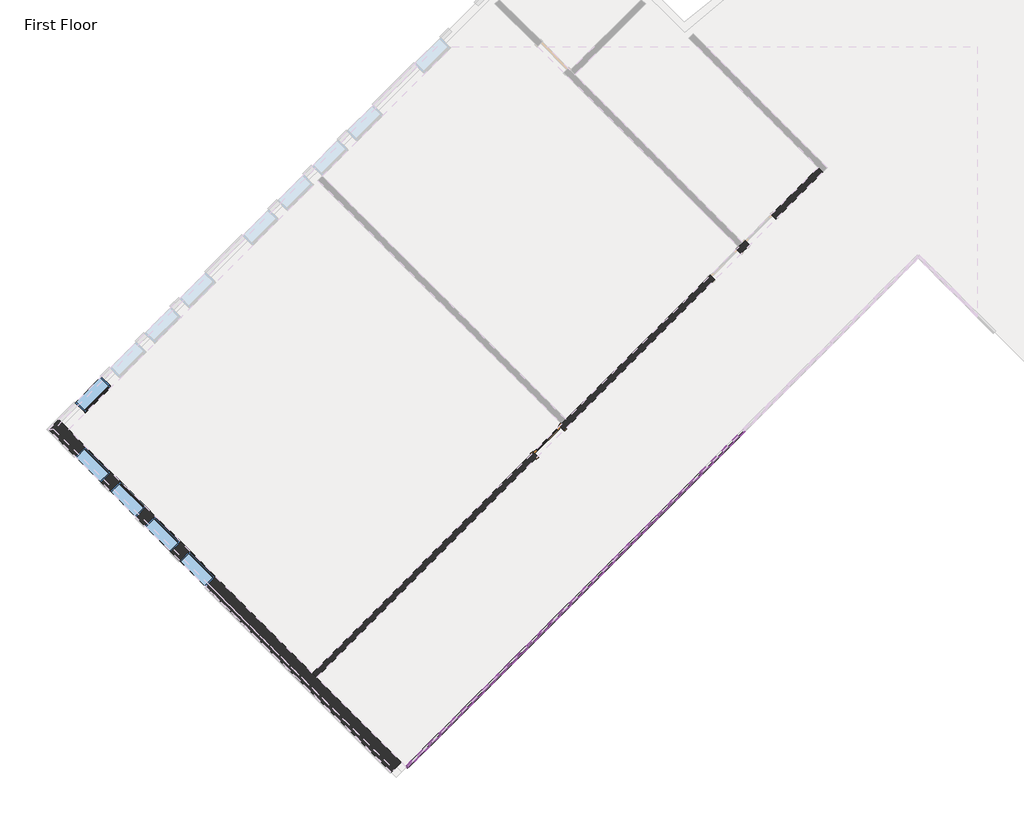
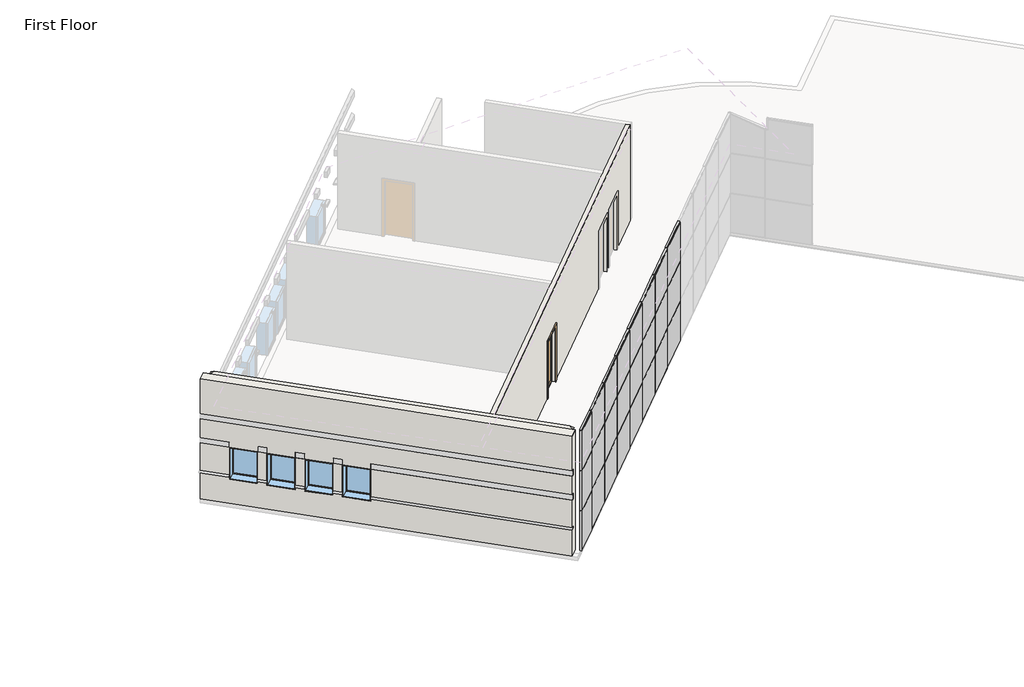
# One storey, part 1 of 7: 55 members, 24 plates, 5 windows, 2 walls, 1 door.
"""IFC4 building model written with IfcOpenShell, lengths in millimetres."""

from ifc_helpers import new_model, si_unit, origin, place, context, project, spatial, faceted_brep, transform, mapped, element, save
from components import door_b81abb0e, member_501cf4ca, member_155beb68, member_42be4715, member_2a473b70, member_6121af53, member_3d68c01a, member_b87a50da, member_c3f37f0b, system_panel_glazed_da345f4e, system_panel_glazed_f1e4c5b0, system_panel_glazed_6b3f3dd8, system_panel_glazed_4e4f70a1, system_panel_solid_cb9a7247, system_panel_solid_e887e8ce, window_15c49d37, window_0e2fc6ce

model = new_model("IFC4")

# Units and contexts
model_context = context("Model", 3, world=origin())
ifc_project = project(units=[si_unit("LENGTHUNIT", "METRE", prefix="MILLI")], contexts=[model_context])

# Site, building, storey
site = spatial("IfcSite", under=ifc_project)
building = spatial("IfcBuilding", under=site)
storey = spatial("IfcBuildingStorey", under=building, Name="First Floor", Elevation=0.0)

# Door
placement = place(None, origin())
door_shape = door_b81abb0e(model_context)
element("IfcDoor", 1, ObjectType="Single-Glass 1 : 36\" x 84\"", at=placement, inside=storey, context=model_context, shape_type="MappedRepresentation", body=[
    mapped(door_shape, transform((-12027.7718255, -1647.4849877, 0.0), x_axis=(0.7071067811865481, 0.7071067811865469, 0.0), y_axis=(-0.7071067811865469, 0.7071067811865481, 0.0), z_axis=(0.0, 0.0, 1.0))),
])

# Members
member_shape = member_501cf4ca(model_context)
element("IfcMember", 2, ObjectType="Rectangular Mullion : 1.5\" x 2.5\" Rectangular", at=placement, inside=storey, context=model_context, shape_type="MappedRepresentation", body=[
    mapped(member_shape, transform((-15523.4543029, -9702.8925106, 4567.7666667), x_axis=(0.0, 0.0, 1.0), y_axis=(-0.7071067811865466, 0.7071067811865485, 0.0), z_axis=(-0.7071067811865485, -0.7071067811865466, 0.0))),
])
member_2_shape = member_155beb68(model_context)
element("IfcMember", 3, ObjectType="Rectangular Mullion : 1.5\" x 2.5\" Rectangular", at=placement, inside=storey, context=model_context, shape_type="MappedRepresentation", body=[
    mapped(member_2_shape, transform((-8256.1820372, -2435.6202448, 0.0), x_axis=(-0.7071067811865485, -0.7071067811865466, 0.0), y_axis=(-0.7071067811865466, 0.7071067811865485, 0.0), z_axis=(0.0, 0.0, -1.0))),
])
element("IfcMember", 4, ObjectType="Rectangular Mullion : 1.5\" x 2.5\" Rectangular", at=placement, inside=storey, context=model_context, shape_type="MappedRepresentation", body=[
    mapped(member_2_shape, transform((-9333.8127717, -3513.2509794, 0.0), x_axis=(-0.7071067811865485, -0.7071067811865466, 0.0), y_axis=(-0.7071067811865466, 0.7071067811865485, 0.0), z_axis=(0.0, 0.0, -1.0))),
])
element("IfcMember", 5, ObjectType="Rectangular Mullion : 1.5\" x 2.5\" Rectangular", at=placement, inside=storey, context=model_context, shape_type="MappedRepresentation", body=[
    mapped(member_2_shape, transform((-10411.4435062, -4590.8817139, 0.0), x_axis=(-0.7071067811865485, -0.7071067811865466, 0.0), y_axis=(-0.7071067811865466, 0.7071067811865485, 0.0), z_axis=(0.0, 0.0, -1.0))),
])
element("IfcMember", 6, ObjectType="Rectangular Mullion : 1.5\" x 2.5\" Rectangular", at=placement, inside=storey, context=model_context, shape_type="MappedRepresentation", body=[
    mapped(member_2_shape, transform((-11489.0742407, -5668.5124484, 0.0), x_axis=(-0.7071067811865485, -0.7071067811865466, 0.0), y_axis=(-0.7071067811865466, 0.7071067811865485, 0.0), z_axis=(0.0, 0.0, -1.0))),
])
element("IfcMember", 7, ObjectType="Rectangular Mullion : 1.5\" x 2.5\" Rectangular", at=placement, inside=storey, context=model_context, shape_type="MappedRepresentation", body=[
    mapped(member_2_shape, transform((-12566.7049753, -6746.143183, 0.0), x_axis=(-0.7071067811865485, -0.7071067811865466, 0.0), y_axis=(-0.7071067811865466, 0.7071067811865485, 0.0), z_axis=(0.0, 0.0, -1.0))),
])
element("IfcMember", 8, ObjectType="Rectangular Mullion : 1.5\" x 2.5\" Rectangular", at=placement, inside=storey, context=model_context, shape_type="MappedRepresentation", body=[
    mapped(member_2_shape, transform((-13644.3357098, -7823.7739175, 0.0), x_axis=(-0.7071067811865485, -0.7071067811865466, 0.0), y_axis=(-0.7071067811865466, 0.7071067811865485, 0.0), z_axis=(0.0, 0.0, -1.0))),
])
element("IfcMember", 9, ObjectType="Rectangular Mullion : 1.5\" x 2.5\" Rectangular", at=placement, inside=storey, context=model_context, shape_type="MappedRepresentation", body=[
    mapped(member_2_shape, transform((-14721.9664443, -8901.404652, 0.0), x_axis=(-0.7071067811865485, -0.7071067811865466, 0.0), y_axis=(-0.7071067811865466, 0.7071067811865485, 0.0), z_axis=(0.0, 0.0, -1.0))),
])
member_3_shape = member_42be4715(model_context)
element("IfcMember", 10, ObjectType="Rectangular Mullion : 1.5\" x 2.5\" Rectangular", at=placement, inside=storey, context=model_context, shape_type="MappedRepresentation", body=[
    mapped(member_3_shape, transform((-8242.711653, -2422.1498607, 1524.0), x_axis=(0.0, 0.0, 1.0), y_axis=(-0.7071067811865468, 0.7071067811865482, 0.0), z_axis=(-0.7071067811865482, -0.7071067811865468, 0.0))),
])
element("IfcMember", 11, ObjectType="Rectangular Mullion : 1.5\" x 2.5\" Rectangular", at=placement, inside=storey, context=model_context, shape_type="MappedRepresentation", body=[
    mapped(member_3_shape, transform((-9320.3423875, -3499.7805952, 1524.0), x_axis=(0.0, 0.0, 1.0), y_axis=(-0.7071067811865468, 0.7071067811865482, 0.0), z_axis=(-0.7071067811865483, -0.7071067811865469, 0.0))),
])
element("IfcMember", 12, ObjectType="Rectangular Mullion : 1.5\" x 2.5\" Rectangular", at=placement, inside=storey, context=model_context, shape_type="MappedRepresentation", body=[
    mapped(member_3_shape, transform((-10397.973122, -4577.4113297, 1524.0), x_axis=(0.0, 0.0, 1.0), y_axis=(-0.7071067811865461, 0.707106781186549, 0.0), z_axis=(-0.707106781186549, -0.7071067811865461, 0.0))),
])
element("IfcMember", 13, ObjectType="Rectangular Mullion : 1.5\" x 2.5\" Rectangular", at=placement, inside=storey, context=model_context, shape_type="MappedRepresentation", body=[
    mapped(member_3_shape, transform((-11475.6038566, -5655.0420642, 1524.0), x_axis=(0.0, 0.0, 1.0), y_axis=(-0.7071067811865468, 0.7071067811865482, 0.0), z_axis=(-0.7071067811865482, -0.7071067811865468, 0.0))),
])
element("IfcMember", 14, ObjectType="Rectangular Mullion : 1.5\" x 2.5\" Rectangular", at=placement, inside=storey, context=model_context, shape_type="MappedRepresentation", body=[
    mapped(member_3_shape, transform((-12553.2345911, -6732.6727988, 1524.0), x_axis=(0.0, 0.0, 1.0), y_axis=(-0.7071067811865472, 0.7071067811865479, 0.0), z_axis=(-0.7071067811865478, -0.7071067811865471, 0.0))),
])
element("IfcMember", 15, ObjectType="Rectangular Mullion : 1.5\" x 2.5\" Rectangular", at=placement, inside=storey, context=model_context, shape_type="MappedRepresentation", body=[
    mapped(member_3_shape, transform((-13630.8653256, -7810.3035333, 1524.0), x_axis=(0.0, 0.0, 1.0), y_axis=(-0.7071067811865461, 0.7071067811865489, 0.0), z_axis=(-0.7071067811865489, -0.7071067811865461, 0.0))),
])
element("IfcMember", 16, ObjectType="Rectangular Mullion : 1.5\" x 2.5\" Rectangular", at=placement, inside=storey, context=model_context, shape_type="MappedRepresentation", body=[
    mapped(member_3_shape, transform((-14708.4960602, -8887.9342678, 1524.0), x_axis=(0.0, 0.0, 1.0), y_axis=(-0.7071067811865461, 0.707106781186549, 0.0), z_axis=(-0.7071067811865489, -0.707106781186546, 0.0))),
])
element("IfcMember", 17, ObjectType="Rectangular Mullion : 1.5\" x 2.5\" Rectangular", at=placement, inside=storey, context=model_context, shape_type="MappedRepresentation", body=[
    mapped(member_3_shape, transform((-8242.711653, -2422.1498607, 3048.0), x_axis=(0.0, 0.0, 1.0), y_axis=(-0.7071067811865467, 0.7071067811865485, 0.0), z_axis=(-0.7071067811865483, -0.7071067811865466, 0.0))),
])
element("IfcMember", 18, ObjectType="Rectangular Mullion : 1.5\" x 2.5\" Rectangular", at=placement, inside=storey, context=model_context, shape_type="MappedRepresentation", body=[
    mapped(member_3_shape, transform((-9320.3423875, -3499.7805952, 3048.0), x_axis=(0.0, 0.0, 1.0), y_axis=(-0.7071067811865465, 0.7071067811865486, 0.0), z_axis=(-0.7071067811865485, -0.7071067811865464, 0.0))),
])
element("IfcMember", 19, ObjectType="Rectangular Mullion : 1.5\" x 2.5\" Rectangular", at=placement, inside=storey, context=model_context, shape_type="MappedRepresentation", body=[
    mapped(member_3_shape, transform((-10397.973122, -4577.4113297, 3048.0), x_axis=(0.0, 0.0, 1.0), y_axis=(-0.7071067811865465, 0.7071067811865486, 0.0), z_axis=(-0.7071067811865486, -0.7071067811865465, 0.0))),
])
element("IfcMember", 20, ObjectType="Rectangular Mullion : 1.5\" x 2.5\" Rectangular", at=placement, inside=storey, context=model_context, shape_type="MappedRepresentation", body=[
    mapped(member_3_shape, transform((-11475.6038566, -5655.0420642, 3048.0), x_axis=(0.0, 0.0, 1.0), y_axis=(-0.7071067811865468, 0.7071067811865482, 0.0), z_axis=(-0.7071067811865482, -0.7071067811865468, 0.0))),
])
element("IfcMember", 21, ObjectType="Rectangular Mullion : 1.5\" x 2.5\" Rectangular", at=placement, inside=storey, context=model_context, shape_type="MappedRepresentation", body=[
    mapped(member_3_shape, transform((-12553.2345911, -6732.6727988, 3048.0), x_axis=(0.0, 0.0, 1.0), y_axis=(-0.7071067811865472, 0.7071067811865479, 0.0), z_axis=(-0.7071067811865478, -0.7071067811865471, 0.0))),
])
element("IfcMember", 22, ObjectType="Rectangular Mullion : 1.5\" x 2.5\" Rectangular", at=placement, inside=storey, context=model_context, shape_type="MappedRepresentation", body=[
    mapped(member_3_shape, transform((-13630.8653256, -7810.3035333, 3048.0), x_axis=(0.0, 0.0, 1.0), y_axis=(-0.7071067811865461, 0.7071067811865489, 0.0), z_axis=(-0.7071067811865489, -0.7071067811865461, 0.0))),
])
element("IfcMember", 23, ObjectType="Rectangular Mullion : 1.5\" x 2.5\" Rectangular", at=placement, inside=storey, context=model_context, shape_type="MappedRepresentation", body=[
    mapped(member_3_shape, transform((-14708.4960602, -8887.9342678, 3048.0), x_axis=(0.0, 0.0, 1.0), y_axis=(-0.7071067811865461, 0.707106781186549, 0.0), z_axis=(-0.7071067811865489, -0.707106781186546, 0.0))),
])
member_4_shape = member_2a473b70(model_context)
element("IfcMember", 24, ObjectType="Rectangular Mullion : 1.5\" x 2.5\" Rectangular", at=placement, inside=storey, context=model_context, shape_type="MappedRepresentation", body=[
    mapped(member_4_shape, transform((-15523.4543029, -9702.8925106, 1524.0), x_axis=(0.0, 0.0, 1.0), y_axis=(-0.7071067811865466, 0.7071067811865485, 0.0), z_axis=(-0.7071067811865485, -0.7071067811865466, 0.0))),
])
element("IfcMember", 25, ObjectType="Rectangular Mullion : 1.5\" x 2.5\" Rectangular", at=placement, inside=storey, context=model_context, shape_type="MappedRepresentation", body=[
    mapped(member_4_shape, transform((-15523.4543029, -9702.8925106, 3048.0), x_axis=(0.0, 0.0, 1.0), y_axis=(-0.7071067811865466, 0.7071067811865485, 0.0), z_axis=(-0.7071067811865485, -0.7071067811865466, 0.0))),
])
member_5_shape = member_6121af53(model_context)
element("IfcMember", 26, ObjectType="Rectangular Mullion : 1.5\" x 2.5\" Rectangular", at=placement, inside=storey, context=model_context, shape_type="MappedRepresentation", body=[
    mapped(member_5_shape, transform((-8269.6524213, -2449.090629, 0.0), x_axis=(0.0, 0.0, -1.0), y_axis=(-0.7071067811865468, 0.7071067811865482, 0.0), z_axis=(0.7071067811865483, 0.7071067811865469, 0.0))),
])
element("IfcMember", 27, ObjectType="Rectangular Mullion : 1.5\" x 2.5\" Rectangular", at=placement, inside=storey, context=model_context, shape_type="MappedRepresentation", body=[
    mapped(member_5_shape, transform((-9347.2831559, -3526.7213635, 0.0), x_axis=(0.0, 0.0, -1.0), y_axis=(-0.7071067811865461, 0.707106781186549, 0.0), z_axis=(0.707106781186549, 0.7071067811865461, 0.0))),
])
element("IfcMember", 28, ObjectType="Rectangular Mullion : 1.5\" x 2.5\" Rectangular", at=placement, inside=storey, context=model_context, shape_type="MappedRepresentation", body=[
    mapped(member_5_shape, transform((-10424.9138904, -4604.3520981, 0.0), x_axis=(0.0, 0.0, -1.0), y_axis=(-0.7071067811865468, 0.7071067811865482, 0.0), z_axis=(0.7071067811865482, 0.7071067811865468, 0.0))),
])
element("IfcMember", 29, ObjectType="Rectangular Mullion : 1.5\" x 2.5\" Rectangular", at=placement, inside=storey, context=model_context, shape_type="MappedRepresentation", body=[
    mapped(member_5_shape, transform((-11502.5446249, -5681.9828326, 0.0), x_axis=(0.0, 0.0, -1.0), y_axis=(-0.7071067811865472, 0.7071067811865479, 0.0), z_axis=(0.7071067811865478, 0.7071067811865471, 0.0))),
])
element("IfcMember", 30, ObjectType="Rectangular Mullion : 1.5\" x 2.5\" Rectangular", at=placement, inside=storey, context=model_context, shape_type="MappedRepresentation", body=[
    mapped(member_5_shape, transform((-12580.1753595, -6759.6135671, 0.0), x_axis=(0.0, 0.0, -1.0), y_axis=(-0.7071067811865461, 0.7071067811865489, 0.0), z_axis=(0.7071067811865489, 0.7071067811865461, 0.0))),
])
element("IfcMember", 31, ObjectType="Rectangular Mullion : 1.5\" x 2.5\" Rectangular", at=placement, inside=storey, context=model_context, shape_type="MappedRepresentation", body=[
    mapped(member_5_shape, transform((-13657.806094, -7837.2443017, 0.0), x_axis=(0.0, 0.0, -1.0), y_axis=(-0.7071067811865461, 0.707106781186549, 0.0), z_axis=(0.7071067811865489, 0.707106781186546, 0.0))),
])
element("IfcMember", 32, ObjectType="Rectangular Mullion : 1.5\" x 2.5\" Rectangular", at=placement, inside=storey, context=model_context, shape_type="MappedRepresentation", body=[
    mapped(member_shape, transform((-14735.4368285, -8914.8750362, 0.0), x_axis=(0.0, 0.0, -1.0), y_axis=(-0.7071067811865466, 0.7071067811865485, 0.0), z_axis=(0.7071067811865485, 0.7071067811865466, 0.0))),
])
element("IfcMember", 33, ObjectType="Rectangular Mullion : 1.5\" x 2.5\" Rectangular", at=placement, inside=storey, context=model_context, shape_type="MappedRepresentation", body=[
    mapped(member_5_shape, transform((-8242.711653, -2422.1498607, 4567.7666667), x_axis=(0.0, 0.0, 1.0), y_axis=(-0.7071067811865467, 0.7071067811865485, 0.0), z_axis=(-0.7071067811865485, -0.7071067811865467, 0.0))),
])
element("IfcMember", 34, ObjectType="Rectangular Mullion : 1.5\" x 2.5\" Rectangular", at=placement, inside=storey, context=model_context, shape_type="MappedRepresentation", body=[
    mapped(member_5_shape, transform((-9320.3423875, -3499.7805952, 4567.7666667), x_axis=(0.0, 0.0, 1.0), y_axis=(-0.7071067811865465, 0.7071067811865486, 0.0), z_axis=(-0.7071067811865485, -0.7071067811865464, 0.0))),
])
element("IfcMember", 35, ObjectType="Rectangular Mullion : 1.5\" x 2.5\" Rectangular", at=placement, inside=storey, context=model_context, shape_type="MappedRepresentation", body=[
    mapped(member_5_shape, transform((-10397.973122, -4577.4113297, 4567.7666667), x_axis=(0.0, 0.0, 1.0), y_axis=(-0.7071067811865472, 0.7071067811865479, 0.0), z_axis=(-0.7071067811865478, -0.7071067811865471, 0.0))),
])
element("IfcMember", 36, ObjectType="Rectangular Mullion : 1.5\" x 2.5\" Rectangular", at=placement, inside=storey, context=model_context, shape_type="MappedRepresentation", body=[
    mapped(member_5_shape, transform((-11475.6038566, -5655.0420642, 4567.7666667), x_axis=(0.0, 0.0, 1.0), y_axis=(-0.7071067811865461, 0.707106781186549, 0.0), z_axis=(-0.7071067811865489, -0.707106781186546, 0.0))),
])
element("IfcMember", 37, ObjectType="Rectangular Mullion : 1.5\" x 2.5\" Rectangular", at=placement, inside=storey, context=model_context, shape_type="MappedRepresentation", body=[
    mapped(member_5_shape, transform((-12553.2345911, -6732.6727988, 4567.7666667), x_axis=(0.0, 0.0, 1.0), y_axis=(-0.7071067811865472, 0.7071067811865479, 0.0), z_axis=(-0.7071067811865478, -0.7071067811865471, 0.0))),
])
element("IfcMember", 38, ObjectType="Rectangular Mullion : 1.5\" x 2.5\" Rectangular", at=placement, inside=storey, context=model_context, shape_type="MappedRepresentation", body=[
    mapped(member_5_shape, transform((-13630.8653256, -7810.3035333, 4567.7666667), x_axis=(0.0, 0.0, 1.0), y_axis=(-0.7071067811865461, 0.7071067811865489, 0.0), z_axis=(-0.7071067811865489, -0.7071067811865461, 0.0))),
])
element("IfcMember", 39, ObjectType="Rectangular Mullion : 1.5\" x 2.5\" Rectangular", at=placement, inside=storey, context=model_context, shape_type="MappedRepresentation", body=[
    mapped(member_5_shape, transform((-14708.4960602, -8887.9342678, 4567.7666667), x_axis=(0.0, 0.0, 1.0), y_axis=(-0.7071067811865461, 0.707106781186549, 0.0), z_axis=(-0.7071067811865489, -0.707106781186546, 0.0))),
])
element("IfcMember", 40, ObjectType="Rectangular Mullion : 1.5\" x 2.5\" Rectangular", at=placement, inside=storey, context=model_context, shape_type="MappedRepresentation", body=[
    mapped(member_2_shape, transform((-8256.1820372, -2435.6202448, 1524.0), x_axis=(-0.7071067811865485, -0.7071067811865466, 0.0), y_axis=(-0.7071067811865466, 0.7071067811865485, 0.0), z_axis=(0.0, 0.0, -1.0))),
])
element("IfcMember", 41, ObjectType="Rectangular Mullion : 1.5\" x 2.5\" Rectangular", at=placement, inside=storey, context=model_context, shape_type="MappedRepresentation", body=[
    mapped(member_2_shape, transform((-9333.8127717, -3513.2509794, 1524.0), x_axis=(-0.7071067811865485, -0.7071067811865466, 0.0), y_axis=(-0.7071067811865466, 0.7071067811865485, 0.0), z_axis=(0.0, 0.0, -1.0))),
])
element("IfcMember", 42, ObjectType="Rectangular Mullion : 1.5\" x 2.5\" Rectangular", at=placement, inside=storey, context=model_context, shape_type="MappedRepresentation", body=[
    mapped(member_2_shape, transform((-10411.4435062, -4590.8817139, 1524.0), x_axis=(-0.7071067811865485, -0.7071067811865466, 0.0), y_axis=(-0.7071067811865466, 0.7071067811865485, 0.0), z_axis=(0.0, 0.0, -1.0))),
])
element("IfcMember", 43, ObjectType="Rectangular Mullion : 1.5\" x 2.5\" Rectangular", at=placement, inside=storey, context=model_context, shape_type="MappedRepresentation", body=[
    mapped(member_2_shape, transform((-11489.0742407, -5668.5124484, 1524.0), x_axis=(-0.7071067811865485, -0.7071067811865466, 0.0), y_axis=(-0.7071067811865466, 0.7071067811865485, 0.0), z_axis=(0.0, 0.0, -1.0))),
])
element("IfcMember", 44, ObjectType="Rectangular Mullion : 1.5\" x 2.5\" Rectangular", at=placement, inside=storey, context=model_context, shape_type="MappedRepresentation", body=[
    mapped(member_2_shape, transform((-12566.7049753, -6746.143183, 1524.0), x_axis=(-0.7071067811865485, -0.7071067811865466, 0.0), y_axis=(-0.7071067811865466, 0.7071067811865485, 0.0), z_axis=(0.0, 0.0, -1.0))),
])
element("IfcMember", 45, ObjectType="Rectangular Mullion : 1.5\" x 2.5\" Rectangular", at=placement, inside=storey, context=model_context, shape_type="MappedRepresentation", body=[
    mapped(member_2_shape, transform((-13644.3357098, -7823.7739175, 1524.0), x_axis=(-0.7071067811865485, -0.7071067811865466, 0.0), y_axis=(-0.7071067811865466, 0.7071067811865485, 0.0), z_axis=(0.0, 0.0, -1.0))),
])
element("IfcMember", 46, ObjectType="Rectangular Mullion : 1.5\" x 2.5\" Rectangular", at=placement, inside=storey, context=model_context, shape_type="MappedRepresentation", body=[
    mapped(member_2_shape, transform((-14721.9664443, -8901.404652, 1524.0), x_axis=(-0.7071067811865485, -0.7071067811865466, 0.0), y_axis=(-0.7071067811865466, 0.7071067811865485, 0.0), z_axis=(0.0, 0.0, -1.0))),
])
member_6_shape = member_3d68c01a(model_context)
element("IfcMember", 47, ObjectType="Rectangular Mullion : 1.5\" x 2.5\" Rectangular", at=placement, inside=storey, context=model_context, shape_type="MappedRepresentation", body=[
    mapped(member_6_shape, transform((-8256.1820372, -2435.6202448, 3048.0), x_axis=(-0.7071067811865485, -0.7071067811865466, 0.0), y_axis=(-0.7071067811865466, 0.7071067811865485, 0.0), z_axis=(0.0, 0.0, -1.0))),
])
element("IfcMember", 48, ObjectType="Rectangular Mullion : 1.5\" x 2.5\" Rectangular", at=placement, inside=storey, context=model_context, shape_type="MappedRepresentation", body=[
    mapped(member_6_shape, transform((-9333.8127717, -3513.2509794, 3048.0), x_axis=(-0.7071067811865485, -0.7071067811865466, 0.0), y_axis=(-0.7071067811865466, 0.7071067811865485, 0.0), z_axis=(0.0, 0.0, -1.0))),
])
element("IfcMember", 49, ObjectType="Rectangular Mullion : 1.5\" x 2.5\" Rectangular", at=placement, inside=storey, context=model_context, shape_type="MappedRepresentation", body=[
    mapped(member_6_shape, transform((-10411.4435062, -4590.8817139, 3048.0), x_axis=(-0.7071067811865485, -0.7071067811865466, 0.0), y_axis=(-0.7071067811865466, 0.7071067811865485, 0.0), z_axis=(0.0, 0.0, -1.0))),
])
element("IfcMember", 50, ObjectType="Rectangular Mullion : 1.5\" x 2.5\" Rectangular", at=placement, inside=storey, context=model_context, shape_type="MappedRepresentation", body=[
    mapped(member_6_shape, transform((-11489.0742407, -5668.5124484, 3048.0), x_axis=(-0.7071067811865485, -0.7071067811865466, 0.0), y_axis=(-0.7071067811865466, 0.7071067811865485, 0.0), z_axis=(0.0, 0.0, -1.0))),
])
element("IfcMember", 51, ObjectType="Rectangular Mullion : 1.5\" x 2.5\" Rectangular", at=placement, inside=storey, context=model_context, shape_type="MappedRepresentation", body=[
    mapped(member_6_shape, transform((-12566.7049753, -6746.143183, 3048.0), x_axis=(-0.7071067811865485, -0.7071067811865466, 0.0), y_axis=(-0.7071067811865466, 0.7071067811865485, 0.0), z_axis=(0.0, 0.0, -1.0))),
])
element("IfcMember", 52, ObjectType="Rectangular Mullion : 1.5\" x 2.5\" Rectangular", at=placement, inside=storey, context=model_context, shape_type="MappedRepresentation", body=[
    mapped(member_6_shape, transform((-13644.3357098, -7823.7739175, 3048.0), x_axis=(-0.7071067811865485, -0.7071067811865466, 0.0), y_axis=(-0.7071067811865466, 0.7071067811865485, 0.0), z_axis=(0.0, 0.0, -1.0))),
])
element("IfcMember", 53, ObjectType="Rectangular Mullion : 1.5\" x 2.5\" Rectangular", at=placement, inside=storey, context=model_context, shape_type="MappedRepresentation", body=[
    mapped(member_6_shape, transform((-14721.9664443, -8901.404652, 3048.0), x_axis=(-0.7071067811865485, -0.7071067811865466, 0.0), y_axis=(-0.7071067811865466, 0.7071067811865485, 0.0), z_axis=(0.0, 0.0, -1.0))),
])
member_7_shape = member_b87a50da(model_context)
element("IfcMember", 54, ObjectType="Rectangular Mullion : 1.5\" x 2.5\" Rectangular", at=placement, inside=storey, context=model_context, shape_type="MappedRepresentation", body=[
    mapped(member_7_shape, transform((-15550.3950713, -9729.833279, 0.0), x_axis=(-0.7071067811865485, -0.7071067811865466, 0.0), y_axis=(-0.7071067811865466, 0.7071067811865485, 0.0), z_axis=(0.0, 0.0, -1.0))),
])
element("IfcMember", 55, ObjectType="Rectangular Mullion : 1.5\" x 2.5\" Rectangular", at=placement, inside=storey, context=model_context, shape_type="MappedRepresentation", body=[
    mapped(member_7_shape, transform((-15550.3950713, -9729.833279, 1524.0), x_axis=(-0.7071067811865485, -0.7071067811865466, 0.0), y_axis=(-0.7071067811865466, 0.7071067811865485, 0.0), z_axis=(0.0, 0.0, -1.0))),
])
member_8_shape = member_c3f37f0b(model_context)
element("IfcMember", 56, ObjectType="Rectangular Mullion : 1.5\" x 2.5\" Rectangular", at=placement, inside=storey, context=model_context, shape_type="MappedRepresentation", body=[
    mapped(member_8_shape, transform((-15550.3950713, -9729.833279, 3048.0), x_axis=(-0.7071067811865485, -0.7071067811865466, 0.0), y_axis=(-0.7071067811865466, 0.7071067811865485, 0.0), z_axis=(0.0, 0.0, -1.0))),
])

# Plates
system_panel_glazed_shape = system_panel_glazed_da345f4e(model_context)
element("IfcPlate", 57, ObjectType="System Panel : Glazed", at=placement, inside=storey, context=model_context, shape_type="MappedRepresentation", body=[
    mapped(system_panel_glazed_shape, transform((-7717.3666699, -1896.8048776, 38.1), x_axis=(-0.7071067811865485, -0.7071067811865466, 0.0), y_axis=(0.7071067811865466, -0.7071067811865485, 0.0), z_axis=(0.0, 0.0, 1.0))),
])
element("IfcPlate", 58, ObjectType="System Panel : Glazed", at=placement, inside=storey, context=model_context, shape_type="MappedRepresentation", body=[
    mapped(system_panel_glazed_shape, transform((-8794.9974044, -2974.4356121, 38.1), x_axis=(-0.7071067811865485, -0.7071067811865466, 0.0), y_axis=(0.7071067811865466, -0.7071067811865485, 0.0), z_axis=(0.0, 0.0, 1.0))),
])
element("IfcPlate", 59, ObjectType="System Panel : Glazed", at=placement, inside=storey, context=model_context, shape_type="MappedRepresentation", body=[
    mapped(system_panel_glazed_shape, transform((-9872.628139, -4052.0663466, 38.1), x_axis=(-0.7071067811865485, -0.7071067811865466, 0.0), y_axis=(0.7071067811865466, -0.7071067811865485, 0.0), z_axis=(0.0, 0.0, 1.0))),
])
element("IfcPlate", 60, ObjectType="System Panel : Glazed", at=placement, inside=storey, context=model_context, shape_type="MappedRepresentation", body=[
    mapped(system_panel_glazed_shape, transform((-10950.2588735, -5129.6970812, 38.1), x_axis=(-0.7071067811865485, -0.7071067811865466, 0.0), y_axis=(0.7071067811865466, -0.7071067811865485, 0.0), z_axis=(0.0, 0.0, 1.0))),
])
element("IfcPlate", 61, ObjectType="System Panel : Glazed", at=placement, inside=storey, context=model_context, shape_type="MappedRepresentation", body=[
    mapped(system_panel_glazed_shape, transform((-12027.889608, -6207.3278157, 38.1), x_axis=(-0.7071067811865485, -0.7071067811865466, 0.0), y_axis=(0.7071067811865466, -0.7071067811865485, 0.0), z_axis=(0.0, 0.0, 1.0))),
])
element("IfcPlate", 62, ObjectType="System Panel : Glazed", at=placement, inside=storey, context=model_context, shape_type="MappedRepresentation", body=[
    mapped(system_panel_glazed_shape, transform((-13105.5203425, -7284.9585502, 38.1), x_axis=(-0.7071067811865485, -0.7071067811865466, 0.0), y_axis=(0.7071067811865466, -0.7071067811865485, 0.0), z_axis=(0.0, 0.0, 1.0))),
])
element("IfcPlate", 63, ObjectType="System Panel : Glazed", at=placement, inside=storey, context=model_context, shape_type="MappedRepresentation", body=[
    mapped(system_panel_glazed_shape, transform((-14183.1510771, -8362.5892847, 38.1), x_axis=(-0.7071067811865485, -0.7071067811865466, 0.0), y_axis=(0.7071067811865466, -0.7071067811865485, 0.0), z_axis=(0.0, 0.0, 1.0))),
])
system_panel_glazed_2_shape = system_panel_glazed_f1e4c5b0(model_context)
element("IfcPlate", 64, ObjectType="System Panel : Glazed", at=placement, inside=storey, context=model_context, shape_type="MappedRepresentation", body=[
    mapped(system_panel_glazed_2_shape, transform((-7717.3666699, -1896.8048776, 1543.05), x_axis=(-0.7071067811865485, -0.7071067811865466, 0.0), y_axis=(0.7071067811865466, -0.7071067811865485, 0.0), z_axis=(0.0, 0.0, 1.0))),
])
element("IfcPlate", 65, ObjectType="System Panel : Glazed", at=placement, inside=storey, context=model_context, shape_type="MappedRepresentation", body=[
    mapped(system_panel_glazed_2_shape, transform((-8794.9974044, -2974.4356121, 1543.05), x_axis=(-0.7071067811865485, -0.7071067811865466, 0.0), y_axis=(0.7071067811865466, -0.7071067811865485, 0.0), z_axis=(0.0, 0.0, 1.0))),
])
element("IfcPlate", 66, ObjectType="System Panel : Glazed", at=placement, inside=storey, context=model_context, shape_type="MappedRepresentation", body=[
    mapped(system_panel_glazed_2_shape, transform((-9872.628139, -4052.0663466, 1543.05), x_axis=(-0.7071067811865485, -0.7071067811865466, 0.0), y_axis=(0.7071067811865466, -0.7071067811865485, 0.0), z_axis=(0.0, 0.0, 1.0))),
])
element("IfcPlate", 67, ObjectType="System Panel : Glazed", at=placement, inside=storey, context=model_context, shape_type="MappedRepresentation", body=[
    mapped(system_panel_glazed_2_shape, transform((-10950.2588735, -5129.6970812, 1543.05), x_axis=(-0.7071067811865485, -0.7071067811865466, 0.0), y_axis=(0.7071067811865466, -0.7071067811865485, 0.0), z_axis=(0.0, 0.0, 1.0))),
])
element("IfcPlate", 68, ObjectType="System Panel : Glazed", at=placement, inside=storey, context=model_context, shape_type="MappedRepresentation", body=[
    mapped(system_panel_glazed_2_shape, transform((-12027.889608, -6207.3278157, 1543.05), x_axis=(-0.7071067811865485, -0.7071067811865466, 0.0), y_axis=(0.7071067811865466, -0.7071067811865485, 0.0), z_axis=(0.0, 0.0, 1.0))),
])
element("IfcPlate", 69, ObjectType="System Panel : Glazed", at=placement, inside=storey, context=model_context, shape_type="MappedRepresentation", body=[
    mapped(system_panel_glazed_2_shape, transform((-13105.5203425, -7284.9585502, 1543.05), x_axis=(-0.7071067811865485, -0.7071067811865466, 0.0), y_axis=(0.7071067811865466, -0.7071067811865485, 0.0), z_axis=(0.0, 0.0, 1.0))),
])
element("IfcPlate", 70, ObjectType="System Panel : Glazed", at=placement, inside=storey, context=model_context, shape_type="MappedRepresentation", body=[
    mapped(system_panel_glazed_2_shape, transform((-14183.1510771, -8362.5892847, 1543.05), x_axis=(-0.7071067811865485, -0.7071067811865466, 0.0), y_axis=(0.7071067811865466, -0.7071067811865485, 0.0), z_axis=(0.0, 0.0, 1.0))),
])
system_panel_glazed_3_shape = system_panel_glazed_6b3f3dd8(model_context)
element("IfcPlate", 71, ObjectType="System Panel : Glazed", at=placement, inside=storey, context=model_context, shape_type="MappedRepresentation", body=[
    mapped(system_panel_glazed_3_shape, transform((-15129.4455657, -9308.8837734, 38.1), x_axis=(-0.7071067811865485, -0.7071067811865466, 0.0), y_axis=(0.7071067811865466, -0.7071067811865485, 0.0), z_axis=(0.0, 0.0, 1.0))),
])
system_panel_glazed_4_shape = system_panel_glazed_4e4f70a1(model_context)
element("IfcPlate", 72, ObjectType="System Panel : Glazed", at=placement, inside=storey, context=model_context, shape_type="MappedRepresentation", body=[
    mapped(system_panel_glazed_4_shape, transform((-15129.4455657, -9308.8837734, 1543.05), x_axis=(-0.7071067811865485, -0.7071067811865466, 0.0), y_axis=(0.7071067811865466, -0.7071067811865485, 0.0), z_axis=(0.0, 0.0, 1.0))),
])
system_panel_solid_shape = system_panel_solid_cb9a7247(model_context)
element("IfcPlate", 73, ObjectType="System Panel : Solid", at=placement, inside=storey, context=model_context, shape_type="MappedRepresentation", body=[
    mapped(system_panel_solid_shape, transform((-7717.3666699, -1896.8048776, 3067.05), x_axis=(-0.7071067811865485, -0.7071067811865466, 0.0), y_axis=(0.7071067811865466, -0.7071067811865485, 0.0), z_axis=(0.0, 0.0, 1.0))),
])
element("IfcPlate", 74, ObjectType="System Panel : Solid", at=placement, inside=storey, context=model_context, shape_type="MappedRepresentation", body=[
    mapped(system_panel_solid_shape, transform((-8794.9974044, -2974.4356121, 3067.05), x_axis=(-0.7071067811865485, -0.7071067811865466, 0.0), y_axis=(0.7071067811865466, -0.7071067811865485, 0.0), z_axis=(0.0, 0.0, 1.0))),
])
element("IfcPlate", 75, ObjectType="System Panel : Solid", at=placement, inside=storey, context=model_context, shape_type="MappedRepresentation", body=[
    mapped(system_panel_solid_shape, transform((-9872.628139, -4052.0663466, 3067.05), x_axis=(-0.7071067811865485, -0.7071067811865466, 0.0), y_axis=(0.7071067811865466, -0.7071067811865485, 0.0), z_axis=(0.0, 0.0, 1.0))),
])
element("IfcPlate", 76, ObjectType="System Panel : Solid", at=placement, inside=storey, context=model_context, shape_type="MappedRepresentation", body=[
    mapped(system_panel_solid_shape, transform((-10950.2588735, -5129.6970812, 3067.05), x_axis=(-0.7071067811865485, -0.7071067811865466, 0.0), y_axis=(0.7071067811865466, -0.7071067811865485, 0.0), z_axis=(0.0, 0.0, 1.0))),
])
element("IfcPlate", 77, ObjectType="System Panel : Solid", at=placement, inside=storey, context=model_context, shape_type="MappedRepresentation", body=[
    mapped(system_panel_solid_shape, transform((-12027.889608, -6207.3278157, 3067.05), x_axis=(-0.7071067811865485, -0.7071067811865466, 0.0), y_axis=(0.7071067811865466, -0.7071067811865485, 0.0), z_axis=(0.0, 0.0, 1.0))),
])
element("IfcPlate", 78, ObjectType="System Panel : Solid", at=placement, inside=storey, context=model_context, shape_type="MappedRepresentation", body=[
    mapped(system_panel_solid_shape, transform((-13105.5203425, -7284.9585502, 3067.05), x_axis=(-0.7071067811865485, -0.7071067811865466, 0.0), y_axis=(0.7071067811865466, -0.7071067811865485, 0.0), z_axis=(0.0, 0.0, 1.0))),
])
element("IfcPlate", 79, ObjectType="System Panel : Solid", at=placement, inside=storey, context=model_context, shape_type="MappedRepresentation", body=[
    mapped(system_panel_solid_shape, transform((-14183.1510771, -8362.5892847, 3067.05), x_axis=(-0.7071067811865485, -0.7071067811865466, 0.0), y_axis=(0.7071067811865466, -0.7071067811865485, 0.0), z_axis=(0.0, 0.0, 1.0))),
])
system_panel_solid_2_shape = system_panel_solid_e887e8ce(model_context)
element("IfcPlate", 80, ObjectType="System Panel : Solid", at=placement, inside=storey, context=model_context, shape_type="MappedRepresentation", body=[
    mapped(system_panel_solid_2_shape, transform((-15129.4455657, -9308.8837734, 3067.05), x_axis=(-0.7071067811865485, -0.7071067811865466, 0.0), y_axis=(0.7071067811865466, -0.7071067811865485, 0.0), z_axis=(0.0, 0.0, 1.0))),
])

# Walls
element("IfcWall", 81, ObjectType="Exterior - Split Face and CMU on Mtl. Stud", at=placement, inside=storey, context=model_context, shape_type="Brep", body=[
    faceted_brep([(-23922.2388402, -1357.9895101, 4689.475), (-15799.5971786, -9480.6311716, 4689.475), (-15693.3648307, -9586.8635196, 4639.3965909), (-23922.2388402, -1357.9895101, 4639.3965909), (-23997.6295387, -1282.5988115, 4653.9354839), (-15799.5971786, -9631.4125687, 4653.9354839), (-24073.0202373, -1357.9895101, 4653.9354839)], [[[0, 1, 2, 3, 4]], [[2, 1, 5]], [[1, 0, 6, 5]], [[0, 4, 6]], [[6, 3, 2, 5]], [[3, 6, 4]]]),
    faceted_brep([(-15674.996125, -9605.2322253, 0.0), (-17775.2535253, -7504.974825, 0.0), (-17885.2616628, -7394.9666875, 0.0), (-23922.2388402, -1357.9895101, 0.0), (-24171.4409475, -1108.7874027, 0.0), (-24171.4409475, -1108.7874027, 1016.0), (-24106.3340906, -1173.8942596, 1016.0), (-24106.3340906, -1173.8942596, 1085.85), (-24171.4409475, -1108.7874027, 1085.85), (-24171.4409475, -1108.7874027, 2133.6), (-24106.3340906, -1173.8942596, 2133.6), (-24106.3340906, -1173.8942596, 2336.8), (-24171.4409475, -1108.7874027, 2336.8), (-24171.4409475, -1108.7874027, 3048.0), (-24106.3340906, -1173.8942596, 3048.0), (-24106.3340906, -1173.8942596, 3251.2), (-24171.4409475, -1108.7874027, 3251.2), (-24171.4409475, -1108.7874027, 4572.0), (-23922.2388402, -1357.9895101, 4572.0), (-15674.996125, -9605.2322253, 4572.0), (-20921.7107637, -4358.5175865, 2133.6), (-20921.7107637, -4358.5175865, 914.4), (-20275.132323, -5005.0960273, 914.4), (-20275.132323, -5005.0960273, 2133.6), (-21783.8153513, -3496.4129989, 2133.6), (-21783.8153513, -3496.4129989, 914.4), (-21137.2369106, -4142.9914396, 914.4), (-21137.2369106, -4142.9914396, 2133.6), (-22645.9199389, -2634.3084113, 2133.6), (-22645.9199389, -2634.3084113, 914.4), (-21999.3414982, -3280.886852, 914.4), (-21999.3414982, -3280.886852, 2133.6), (-23508.0245266, -1772.2038237, 2133.6), (-23508.0245266, -1772.2038237, 914.4), (-22861.4460859, -2418.7822644, 914.4), (-22861.4460859, -2418.7822644, 2133.6), (-24420.6430549, -1357.9895101, 0.0), (-15924.1982323, -9854.4343326, 0.0), (-15924.1982323, -9854.4343326, 1016.0), (-20524.3344303, -5254.2981346, 1016.0), (-20524.3344303, -5254.2981346, 914.4), (-21170.9128711, -4607.7196939, 914.4), (-21170.9128711, -4607.7196939, 1016.0), (-21386.439018, -4392.193547, 1016.0), (-21386.439018, -4392.193547, 914.4), (-22033.0174587, -3745.6151063, 914.4), (-22033.0174587, -3745.6151063, 1016.0), (-22248.5436056, -3530.0889594, 1016.0), (-22248.5436056, -3530.0889594, 914.4), (-22895.1220463, -2883.5105187, 914.4), (-22895.1220463, -2883.5105187, 1016.0), (-23110.6481932, -2667.9843718, 1016.0), (-23110.6481932, -2667.9843718, 914.4), (-23757.2266339, -2021.405931, 914.4), (-23757.2266339, -2021.405931, 1016.0), (-24420.6430549, -1357.9895101, 1016.0), (-21170.9128711, -4607.7196939, 2133.6), (-20524.3344303, -5254.2981346, 2133.6), (-20524.3344303, -5254.2981346, 2336.8), (-15924.1982323, -9854.4343326, 2336.8), (-15924.1982323, -9854.4343326, 3048.0), (-24420.6430549, -1357.9895101, 3048.0), (-24420.6430549, -1357.9895101, 2336.8), (-23757.2266339, -2021.405931, 2336.8), (-23757.2266339, -2021.405931, 2133.6), (-23110.6481932, -2667.9843718, 2133.6), (-23110.6481932, -2667.9843718, 2336.8), (-22895.1220463, -2883.5105187, 2336.8), (-22895.1220463, -2883.5105187, 2133.6), (-22248.5436056, -3530.0889594, 2133.6), (-22248.5436056, -3530.0889594, 2336.8), (-22033.0174587, -3745.6151063, 2336.8), (-22033.0174587, -3745.6151063, 2133.6), (-21386.439018, -4392.193547, 2133.6), (-21386.439018, -4392.193547, 2336.8), (-21170.9128711, -4607.7196939, 2336.8), (-20524.3344303, -5254.2981346, 1085.85), (-15924.1982323, -9854.4343326, 1085.85), (-15924.1982323, -9854.4343326, 2133.6), (-21170.9128711, -4607.7196939, 1085.85), (-21386.439018, -4392.193547, 1085.85), (-22033.0174587, -3745.6151063, 1085.85), (-22248.5436056, -3530.0889594, 1085.85), (-22895.1220463, -2883.5105187, 1085.85), (-23110.6481932, -2667.9843718, 1085.85), (-23757.2266339, -2021.405931, 1085.85), (-24420.6430549, -1357.9895101, 2133.6), (-24420.6430549, -1357.9895101, 1085.85), (-24420.6430549, -1357.9895101, 4572.0), (-24420.6430549, -1357.9895101, 3251.2), (-15924.1982323, -9854.4343326, 3251.2), (-15924.1982323, -9854.4343326, 4572.0), (-15859.0913754, -9789.3274758, 3251.2), (-15859.0913754, -9789.3274758, 3048.0), (-15859.0913754, -9789.3274758, 2336.8), (-15859.0913754, -9789.3274758, 2133.6), (-15859.0913754, -9789.3274758, 1085.85), (-15859.0913754, -9789.3274758, 1016.0), (-21105.8060142, -4542.612837, 2133.6), (-21105.8060142, -4542.612837, 1085.85), (-21105.8060142, -4542.612837, 1016.0), (-20459.2275735, -5189.1912777, 1016.0), (-20459.2275735, -5189.1912777, 1085.85), (-20459.2275735, -5189.1912777, 2133.6), (-21967.9106018, -3680.5082494, 2133.6), (-21967.9106018, -3680.5082494, 1085.85), (-21967.9106018, -3680.5082494, 1016.0), (-21321.3321611, -4327.0866901, 1016.0), (-21321.3321611, -4327.0866901, 1085.85), (-21321.3321611, -4327.0866901, 2133.6), (-22830.0151894, -2818.4036618, 2133.6), (-22830.0151894, -2818.4036618, 1085.85), (-22830.0151894, -2818.4036618, 1016.0), (-22183.4367487, -3464.9821025, 1016.0), (-22183.4367487, -3464.9821025, 1085.85), (-22183.4367487, -3464.9821025, 2133.6), (-23692.119777, -1956.2990742, 2133.6), (-23692.119777, -1956.2990742, 1085.85), (-23692.119777, -1956.2990742, 1016.0), (-23045.5413363, -2602.8775149, 1016.0), (-23045.5413363, -2602.8775149, 1085.85), (-23045.5413363, -2602.8775149, 2133.6), (-24290.4293411, -1357.9895101, 1085.85), (-24290.4293411, -1357.9895101, 1016.0), (-20459.2275735, -5189.1912777, 2336.8), (-20459.2275735, -5189.1912777, 2133.6), (-21105.8060142, -4542.612837, 2133.6), (-21105.8060142, -4542.612837, 2336.8), (-21321.3321611, -4327.0866901, 2336.8), (-21321.3321611, -4327.0866901, 2133.6), (-21967.9106018, -3680.5082494, 2133.6), (-21967.9106018, -3680.5082494, 2336.8), (-22183.4367487, -3464.9821025, 2336.8), (-22183.4367487, -3464.9821025, 2133.6), (-22830.0151894, -2818.4036618, 2133.6), (-22830.0151894, -2818.4036618, 2336.8), (-23045.5413363, -2602.8775149, 2336.8), (-23045.5413363, -2602.8775149, 2133.6), (-23692.119777, -1956.2990742, 2133.6), (-23692.119777, -1956.2990742, 2336.8), (-24290.4293411, -1357.9895101, 2133.6), (-24290.4293411, -1357.9895101, 2336.8), (-24290.4293411, -1357.9895101, 3048.0), (-24290.4293411, -1357.9895101, 3251.2)], [[[0, 1, 2, 3, 4, 5, 6, 7, 8, 9, 10, 11, 12, 13, 14, 15, 16, 17, 18, 19], [20, 21, 22, 23], [24, 25, 26, 27], [28, 29, 30, 31], [32, 33, 34, 35]], [[36, 37, 38, 39, 40, 41, 42, 43, 44, 45, 46, 47, 48, 49, 50, 51, 52, 53, 54, 55]], [[56, 57, 58, 59, 60, 61, 62, 63, 64, 65, 66, 67, 68, 69, 70, 71, 72, 73, 74, 75]], [[57, 76, 77, 78]], [[79, 56, 73, 80]], [[81, 72, 69, 82]], [[83, 68, 65, 84]], [[85, 64, 86, 87]], [[88, 89, 90, 91]], [[37, 0, 19, 91, 90, 92, 93, 60, 59, 94, 95, 78, 77, 96, 97, 38]], [[4, 36, 55, 5]], [[8, 87, 86, 9]], [[12, 62, 61, 13]], [[17, 16, 89, 88]], [[4, 3, 2, 1, 0, 37, 36]], [[21, 20, 98, 56, 79, 99, 100, 42, 41]], [[22, 21, 41, 40]], [[23, 22, 40, 39, 101, 102, 76, 57, 103]], [[20, 23, 103, 57, 56, 98]], [[25, 24, 104, 72, 81, 105, 106, 46, 45]], [[26, 25, 45, 44]], [[27, 26, 44, 43, 107, 108, 80, 73, 109]], [[24, 27, 109, 73, 72, 104]], [[29, 28, 110, 68, 83, 111, 112, 50, 49]], [[30, 29, 49, 48]], [[31, 30, 48, 47, 113, 114, 82, 69, 115]], [[28, 31, 115, 69, 68, 110]], [[33, 32, 116, 64, 85, 117, 118, 54, 53]], [[34, 33, 53, 52]], [[35, 34, 52, 51, 119, 120, 84, 65, 121]], [[32, 35, 121, 65, 64, 116]], [[102, 96, 77, 76]], [[97, 101, 39, 38]], [[96, 102, 101, 97]], [[108, 99, 79, 80]], [[100, 107, 43, 42]], [[99, 108, 107, 100]], [[114, 105, 81, 82]], [[106, 113, 47, 46]], [[105, 114, 113, 106]], [[120, 111, 83, 84]], [[112, 119, 51, 50]], [[111, 120, 119, 112]], [[122, 117, 85, 87, 8, 7]], [[118, 123, 6, 5, 55, 54]], [[117, 122, 123, 118]], [[123, 122, 7, 6]], [[124, 58, 57, 125]], [[125, 57, 78, 95]], [[124, 125, 95, 94]], [[58, 124, 94, 59]], [[126, 56, 75, 127]], [[128, 74, 73, 129]], [[56, 126, 129, 73]], [[126, 127, 128, 129]], [[127, 75, 74, 128]], [[130, 72, 71, 131]], [[132, 70, 69, 133]], [[72, 130, 133, 69]], [[130, 131, 132, 133]], [[131, 71, 70, 132]], [[134, 68, 67, 135]], [[136, 66, 65, 137]], [[68, 134, 137, 65]], [[134, 135, 136, 137]], [[135, 67, 66, 136]], [[138, 64, 63, 139]], [[64, 138, 140, 10, 9, 86]], [[138, 139, 141, 140]], [[139, 63, 62, 12, 11, 141]], [[140, 141, 11, 10]], [[93, 142, 14, 13, 61, 60]], [[142, 93, 92, 143]], [[143, 92, 90, 89, 16, 15]], [[142, 143, 15, 14]], [[19, 18, 17, 88, 91]]]),
])
element("IfcWall", 82, ObjectType="Interior - 6 1/8\" Partition (2-hr)", at=placement, inside=storey, context=model_context, shape_type="Brep", body=[
    faceted_brep([(-7264.9862676, 3005.2924327, 0.0), (-7049.4601207, 3220.8185796, 0.0), (-7049.4601207, 3220.8185796, 2133.6), (-6402.88168, 3867.3970204, 2133.6), (-6402.88168, 3867.3970204, 0.0), (-5238.5804157, 5031.6982846, 0.0), (-5238.5804157, 5031.6982846, 3657.6), (-17775.2535253, -7504.974825, 3657.6), (-17775.2535253, -7504.974825, 0.0), (-12296.0569771, -2025.7782768, 0.0), (-12296.0569771, -2025.7782768, 2133.6), (-11649.4785364, -1379.1998361, 2133.6), (-11649.4785364, -1379.1998361, 0.0), (-7911.5647083, 2358.713992, 0.0), (-7911.5647083, 2358.713992, 2133.6), (-7264.9862676, 3005.2924327, 2133.6), (-7159.4682582, 3330.8267171, 2133.6), (-7159.4682582, 3330.8267171, 0.0), (-7212.2272629, 3278.0677124, 0.0), (-7322.2354004, 3168.0595749, 0.0), (-7374.9944051, 3115.3005702, 0.0), (-7374.9944051, 3115.3005702, 2133.6), (-8021.5728458, 2468.7221295, 2133.6), (-8021.5728458, 2468.7221295, 0.0), (-11596.7195317, -1106.4245564, 0.0), (-11706.7276692, -1216.4326939, 0.0), (-11759.4866739, -1269.1916986, 0.0), (-11759.4866739, -1269.1916986, 2133.6), (-12406.0651146, -1915.7701393, 2133.6), (-12406.0651146, -1915.7701393, 0.0), (-17885.2616628, -7394.9666875, 0.0), (-17885.2616628, -7394.9666875, 3657.6), (-11706.7276692, -1216.4326939, 3657.6), (-11596.7195317, -1106.4245564, 3657.6), (-7322.2354004, 3168.0595749, 3657.6), (-7212.2272629, 3278.0677124, 3657.6), (-5348.5885532, 5141.7064221, 3657.6), (-5348.5885532, 5141.7064221, 0.0), (-6512.8898174, 3977.4051578, 0.0), (-6512.8898174, 3977.4051578, 2133.6)], [[[0, 1, 2, 3, 4, 5, 6, 7, 8, 9, 10, 11, 12, 13, 14, 15]], [[16, 17, 18, 19, 20, 21, 22, 23, 24, 25, 26, 27, 28, 29, 30, 31, 32, 33, 34, 35, 36, 37, 38, 39]], [[20, 19, 18, 17, 1, 0]], [[9, 8, 30, 29]], [[13, 12, 26, 25, 24, 23]], [[38, 37, 5, 4]], [[7, 6, 36, 35, 34, 33, 32, 31]], [[8, 7, 31, 30]], [[6, 5, 37, 36]], [[27, 26, 12, 11]], [[28, 27, 11, 10]], [[29, 28, 10, 9]], [[21, 20, 0, 15]], [[22, 21, 15, 14]], [[23, 22, 14, 13]], [[2, 1, 17, 16]], [[3, 2, 16, 39]], [[4, 3, 39, 38]]]),
])

# Windows
window_shape = window_15c49d37(model_context)
element("IfcWindow", 83, ObjectType="Fixed : 36\" x 48\"", at=placement, inside=storey, context=model_context, shape_type="MappedRepresentation", body=[
    mapped(window_shape, transform((-23336.2771283, -522.8256908, 0.0), x_axis=(-0.7071067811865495, -0.7071067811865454, 0.0), y_axis=(0.7071067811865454, -0.7071067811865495, 0.0), z_axis=(0.0, 0.0, 1.0))),
])
window_2_shape = window_0e2fc6ce(model_context)
element("IfcWindow", 84, ObjectType="Fixed : 36\" x 48\"", at=placement, inside=storey, context=model_context, shape_type="MappedRepresentation", body=[
    mapped(window_2_shape, transform((-23336.2771283, -2193.1533294, 0.0), x_axis=(-0.7071067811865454, 0.7071067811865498, 0.0), y_axis=(-0.7071067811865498, -0.7071067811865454, 0.0), z_axis=(0.0, 0.0, 1.0))),
])
element("IfcWindow", 85, ObjectType="Fixed : 36\" x 48\"", at=placement, inside=storey, context=model_context, shape_type="MappedRepresentation", body=[
    mapped(window_2_shape, transform((-22474.1725406, -3055.257917, 0.0), x_axis=(-0.7071067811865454, 0.7071067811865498, 0.0), y_axis=(-0.7071067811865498, -0.7071067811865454, 0.0), z_axis=(0.0, 0.0, 1.0))),
])
element("IfcWindow", 86, ObjectType="Fixed : 36\" x 48\"", at=placement, inside=storey, context=model_context, shape_type="MappedRepresentation", body=[
    mapped(window_2_shape, transform((-21612.067953, -3917.3625046, 0.0), x_axis=(-0.7071067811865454, 0.7071067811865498, 0.0), y_axis=(-0.7071067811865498, -0.7071067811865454, 0.0), z_axis=(0.0, 0.0, 1.0))),
])
element("IfcWindow", 87, ObjectType="Fixed : 36\" x 48\"", at=placement, inside=storey, context=model_context, shape_type="MappedRepresentation", body=[
    mapped(window_2_shape, transform((-20749.9633654, -4779.4670922, 0.0), x_axis=(-0.7071067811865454, 0.7071067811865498, 0.0), y_axis=(-0.7071067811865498, -0.7071067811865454, 0.0), z_axis=(0.0, 0.0, 1.0))),
])

save(model, "model.ifc")
